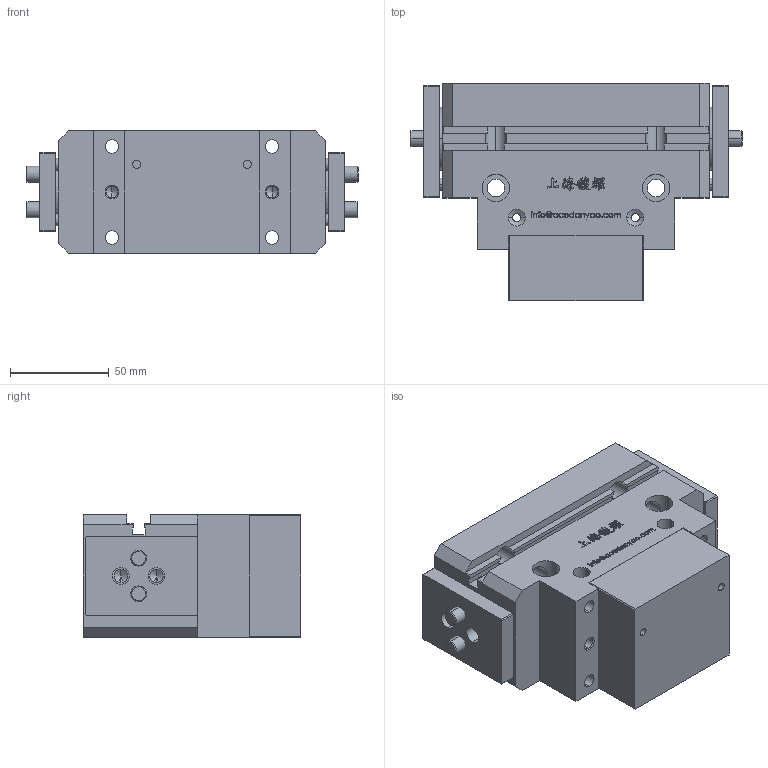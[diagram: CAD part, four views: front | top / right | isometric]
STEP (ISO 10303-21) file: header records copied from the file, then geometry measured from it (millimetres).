
FILE_DESCRIPTION (( 'STEP AP203' ), '1' );
FILE_NAME ('SRO-125-MA&MC-原始檔-組合-W106.04.21.STEP', '2017-04-20T09:19:05', ( 'DanyaoCAD' ), ( '' ), 'SwSTEP 2.0', 'SolidWorks 2016', '' );
FILE_SCHEMA (( 'CONFIG_CONTROL_DESIGN' ));
Length unit declared in the file: millimetre
Products named in the file (4): SRO-125-MA&MC-原始檔-組合-W106.04.21; Griffa; Corpo; Fondello
Assembly tree (4 placements, depth 2):
  SRO-125-MA&MC-原始檔-組合-W106.04.21
    Griffa  x2
    Corpo
    Fondello
Bounding box: 168 x 110 x 62 mm (x, y, z)
Volume: 730426.6 mm3; surface area: 125455.4 mm2
Topology: 4 solids, 4 shells, 1028 faces, 2838 edges, 1872 vertices
Faces by surface type: bspline 640, plane 254, cylinder 98, cone 36
Entity records: 48668 total; most frequent: CARTESIAN_POINT 27266, ORIENTED_EDGE 5464, EDGE_CURVE 2732, DIRECTION 2316, VERTEX_POINT 1814, B_SPLINE_CURVE_WITH_KNOTS 1304, LINE 1244, VECTOR 1244
